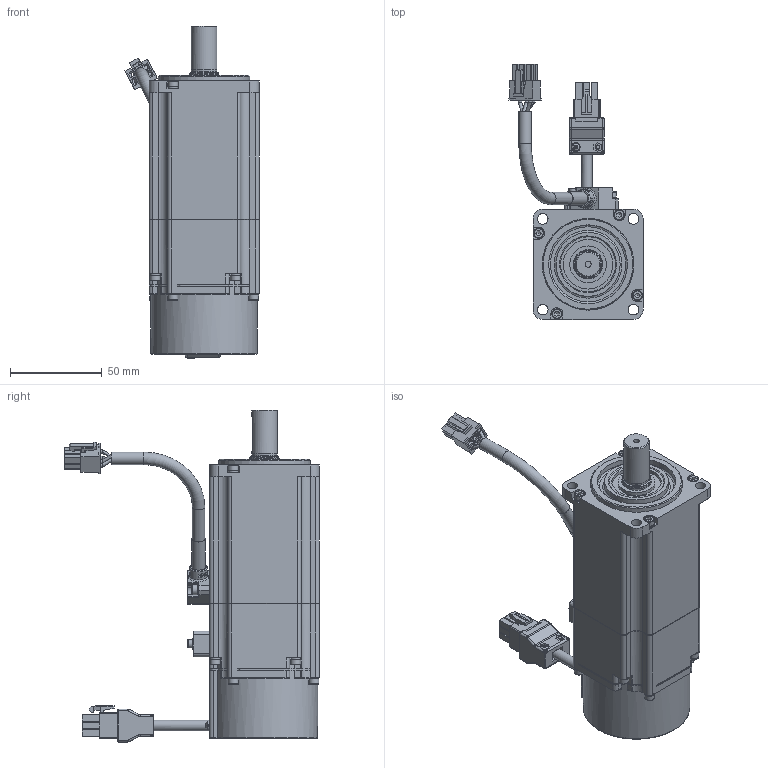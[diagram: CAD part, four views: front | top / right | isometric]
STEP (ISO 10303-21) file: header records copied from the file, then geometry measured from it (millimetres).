
FILE_DESCRIPTION(/* description */ (''),/* implementation_level */ '2;1');
FILE_NAME(/* name */ 'C:\Users\11755\Desktop\SME(磁編)\SME(磁編)_馬達外型圖(客戶版)\3D-STP\SME-L040B(磁編).stp',/* time_stamp */ '2021-08-03T11:48:12+08:00',/* author */ ('11755'),/* organization */ (''),/* preprocessor_version */ 'ST-DEVELOPER v17',/* originating_system */ 'Autodesk Inventor 2019',/* authorisation */ '');
FILE_SCHEMA (('AUTOMOTIVE_DESIGN { 1 0 10303 214 3 1 1 }'));
Products named in the file (1): SME-L040B(磁編)
Bounding box: 73.17 x 139.11 x 181.2 mm (x, y, z)
Volume: 487895 mm3; surface area: 61859.1 mm2
Topology: 1 solids, 10 shells, 1646 faces, 4495 edges, 2917 vertices
Faces by surface type: plane 1020, cylinder 361, cone 86, bspline 72, torus 71, sphere 36
Full cylindrical faces by diameter (mm): 1.2 x4, 1.5 x2, 1.6 x2, 2 x4, 2.459 x2, 2.6 x9, 3.3 x1, 4.5 x2, 5 x2, 5.32 x14, 5.5 x14, 5.8 x5, 6 x2, 6.1 x2, 6.8 x2, 7.2 x1, 9.6 x1, 13.8 x1, 14 x1, 15.8 x2, 16 x2, 17.5 x1, 20 x1, 27 x1, 35 x1, 43 x1, 50 x1
Entity records: 59888 total; most frequent: CARTESIAN_POINT 17029, ORIENTED_EDGE 8912, DIRECTION 8335, EDGE_CURVE 4456, VERTEX_POINT 2914, LINE 2825, VECTOR 2825, AXIS2_PLACEMENT_3D 2755
